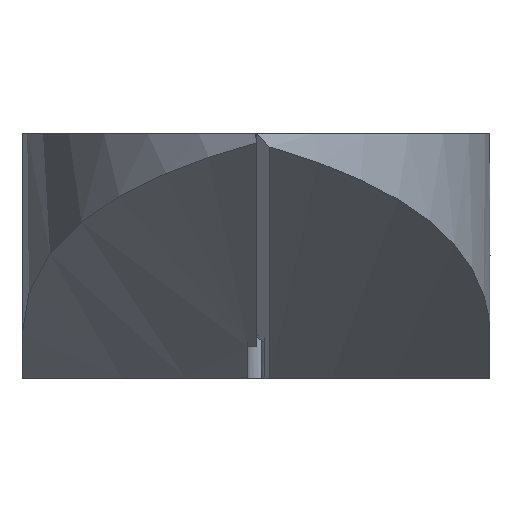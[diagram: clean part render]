
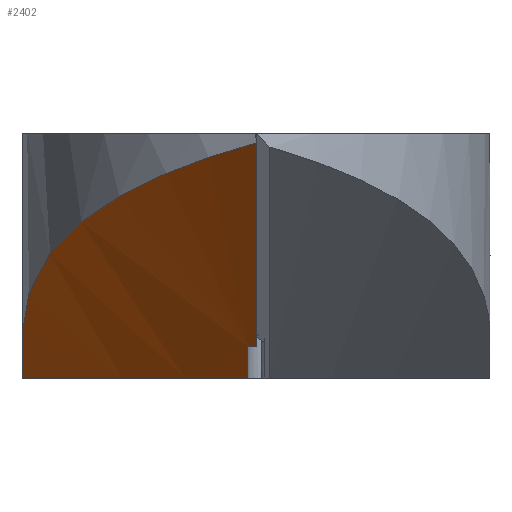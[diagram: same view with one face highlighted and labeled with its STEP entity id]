
A CAD part, left-side view. The second image highlights one B-rep face of the part: STEP entity #2402.
In plain terms, the highlighted cylindrical face has radius 75 mm (diameter 150 mm), a partial arc.
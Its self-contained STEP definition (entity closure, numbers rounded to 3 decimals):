
#36 = CARTESIAN_POINT ( 'NONE',  ( -16.896, 11.5, -9.881 ) ) ;
#55 = CARTESIAN_POINT ( 'NONE',  ( -49.625, 11.5, 9.015 ) ) ;
#127 = CARTESIAN_POINT ( 'NONE',  ( -17.679, 0., -10.453 ) ) ;
#164 = CARTESIAN_POINT ( 'NONE',  ( -16.896, 11.5, -9.881 ) ) ;
#380 = EDGE_LOOP ( 'NONE', ( #3561, #3348, #1880, #3015, #1184, #1423 ) ) ;
#536 = VERTEX_POINT ( 'NONE', #164 ) ;
#598 = LINE ( 'NONE', #1387, #2090 ) ;
#631 = CARTESIAN_POINT ( 'NONE',  ( -18.689, 11.5, -8.846 ) ) ;
#642 = VECTOR ( 'NONE', #2150, 1000. ) ;
#733 = EDGE_CURVE ( 'NONE', #867, #2693, #2463, .T. ) ;
#820 = FACE_OUTER_BOUND ( 'NONE', #380, .T. ) ;
#827 = CARTESIAN_POINT ( 'NONE',  ( -14.958, 4.119, -12. ) ) ;
#867 = VERTEX_POINT ( 'NONE', #1454 ) ;
#1004 = EDGE_CURVE ( 'NONE', #3145, #3318, #2579, .T. ) ;
#1082 = CARTESIAN_POINT ( 'NONE',  ( -29.907, 0.4, -3.392 ) ) ;
#1141 = CARTESIAN_POINT ( 'NONE',  ( -17.679, 0.4, -10.452 ) ) ;
#1184 = ORIENTED_EDGE ( 'NONE', *, *, #2103, .T. ) ;
#1320 = EDGE_CURVE ( 'NONE', #536, #3536, #2005, .T. ) ;
#1387 = CARTESIAN_POINT ( 'NONE',  ( -29.908, 0., -3.393 ) ) ;
#1407 = CARTESIAN_POINT ( 'NONE',  ( -14.998, 0.4, -12. ) ) ;
#1423 = ORIENTED_EDGE ( 'NONE', *, *, #733, .T. ) ;
#1425 = CYLINDRICAL_SURFACE ( 'NONE', #2817, 75. ) ;
#1454 = CARTESIAN_POINT ( 'NONE',  ( -13.226, 11.5, -12. ) ) ;
#1555 = CARTESIAN_POINT ( 'NONE',  ( -28.899, 7.527, -3.541 ) ) ;
#1571 = CARTESIAN_POINT ( 'NONE',  ( -30.01, 6.608, -2.998 ) ) ;
#1585 = CARTESIAN_POINT ( 'NONE',  ( -17.679, 0.267, -10.453 ) ) ;
#1693 = DIRECTION ( 'NONE',  ( 0.866, 0., -0.5 ) ) ;
#1699 = CARTESIAN_POINT ( 'NONE',  ( -12.569, 0., 73.199 ) ) ;
#1711 = CARTESIAN_POINT ( 'NONE',  ( -26.525, 9.055, -4.715 ) ) ;
#1725 = CARTESIAN_POINT ( 'NONE',  ( -28.126, 8.076, -3.92 ) ) ;
#1737 = CARTESIAN_POINT ( 'NONE',  ( -14.367, 7.825, -12. ) ) ;
#1790 = CARTESIAN_POINT ( 'NONE',  ( -24.412, 10.04, -5.787 ) ) ;
#1807 = CARTESIAN_POINT ( 'NONE',  ( -25.696, 9.484, -5.131 ) ) ;
#1819 = CARTESIAN_POINT ( 'NONE',  ( -23.103, 10.518, -6.466 ) ) ;
#1831 = CARTESIAN_POINT ( 'NONE',  ( -23.976, 10.211, -6.011 ) ) ;
#1880 = ORIENTED_EDGE ( 'NONE', *, *, #3863, .F. ) ;
#1883 = CARTESIAN_POINT ( 'NONE',  ( -22.665, 10.656, -6.696 ) ) ;
#1926 = CARTESIAN_POINT ( 'NONE',  ( -17.679, 0.4, -10.452 ) ) ;
#1927 = CARTESIAN_POINT ( 'NONE',  ( -20.467, 11.263, -7.863 ) ) ;
#1998 = DIRECTION ( 'NONE',  ( 0.866, 0., -0.5 ) ) ;
#2005 = B_SPLINE_CURVE_WITH_KNOTS ( 'NONE', 3,
 ( #36, #631, #1927, #1883, #1819, #1831, #1790, #1807, #1711, #1725, #1555, #1571, #3317, #3305, #3291, #3281, #3209, #3200, #3123, #3095 ),
 .UNSPECIFIED., .F., .F.,
 ( 4, 2, 2, 2, 2, 2, 2, 2, 2, 4 ),
 ( 0., 0.006, 0.008, 0.009, 0.012, 0.015, 0.017, 0.018, 0.021, 0.025 ),
 .UNSPECIFIED. ) ;
#2090 = VECTOR ( 'NONE', #1693, 1000. ) ;
#2103 = EDGE_CURVE ( 'NONE', #536, #867, #3806, .T. ) ;
#2110 = CARTESIAN_POINT ( 'NONE',  ( -35., 0., -0.453 ) ) ;
#2150 = DIRECTION ( 'NONE',  ( 0.866, 0., -0.5 ) ) ;
#2296 = LINE ( 'NONE', #1082, #3173 ) ;
#2402 = ADVANCED_FACE ( 'NONE', ( #820 ), #1425, .T. ) ;
#2463 =( BOUNDED_CURVE ( )  B_SPLINE_CURVE ( 3, ( #3828, #1737, #827, #1407 ),
 .UNSPECIFIED., .F., .T. ) 
 B_SPLINE_CURVE_WITH_KNOTS ( ( 4, 4 ),
 ( 2.988, 3.136 ),
 .UNSPECIFIED. ) 
 CURVE ( )  GEOMETRIC_REPRESENTATION_ITEM ( )  RATIONAL_B_SPLINE_CURVE ( ( 1., 0.998, 0.998, 1. ) ) 
 REPRESENTATION_ITEM ( '' )  );
#2579 =( BOUNDED_CURVE ( )  B_SPLINE_CURVE ( 3, ( #1926, #1585, #3654, #127 ),
 .UNSPECIFIED., .F., .T. ) 
 B_SPLINE_CURVE_WITH_KNOTS ( ( 4, 4 ),
 ( 6.278, 6.283 ),
 .UNSPECIFIED. ) 
 CURVE ( )  GEOMETRIC_REPRESENTATION_ITEM ( )  RATIONAL_B_SPLINE_CURVE ( ( 1., 1., 1., 1. ) ) 
 REPRESENTATION_ITEM ( '' )  );
#2693 = VERTEX_POINT ( 'NONE', #3505 ) ;
#2817 = AXIS2_PLACEMENT_3D ( 'NONE', #1699, #1998, #3189 ) ;
#2990 = EDGE_CURVE ( 'NONE', #3145, #2693, #2296, .T. ) ;
#3015 = ORIENTED_EDGE ( 'NONE', *, *, #1320, .F. ) ;
#3095 = CARTESIAN_POINT ( 'NONE',  ( -35., 0., -0.453 ) ) ;
#3123 = CARTESIAN_POINT ( 'NONE',  ( -34.572, 0.913, -0.7 ) ) ;
#3145 = VERTEX_POINT ( 'NONE', #1141 ) ;
#3169 = DIRECTION ( 'NONE',  ( 0.866, 0., -0.5 ) ) ;
#3173 = VECTOR ( 'NONE', #3169, 1000. ) ;
#3189 = DIRECTION ( 'NONE',  ( -0.5, 0., -0.866 ) ) ;
#3200 = CARTESIAN_POINT ( 'NONE',  ( -34.083, 1.775, -0.963 ) ) ;
#3209 = CARTESIAN_POINT ( 'NONE',  ( -32.995, 3.407, -1.526 ) ) ;
#3281 = CARTESIAN_POINT ( 'NONE',  ( -32.396, 4.177, -1.826 ) ) ;
#3291 = CARTESIAN_POINT ( 'NONE',  ( -31.418, 5.26, -2.309 ) ) ;
#3305 = CARTESIAN_POINT ( 'NONE',  ( -31.079, 5.61, -2.475 ) ) ;
#3307 = CARTESIAN_POINT ( 'NONE',  ( -17.679, 0., -10.453 ) ) ;
#3317 = CARTESIAN_POINT ( 'NONE',  ( -30.373, 6.285, -2.82 ) ) ;
#3318 = VERTEX_POINT ( 'NONE', #3307 ) ;
#3348 = ORIENTED_EDGE ( 'NONE', *, *, #1004, .T. ) ;
#3505 = CARTESIAN_POINT ( 'NONE',  ( -14.998, 0.4, -12. ) ) ;
#3536 = VERTEX_POINT ( 'NONE', #2110 ) ;
#3561 = ORIENTED_EDGE ( 'NONE', *, *, #2990, .F. ) ;
#3654 = CARTESIAN_POINT ( 'NONE',  ( -17.679, 0.133, -10.453 ) ) ;
#3806 = LINE ( 'NONE', #55, #642 ) ;
#3828 = CARTESIAN_POINT ( 'NONE',  ( -13.226, 11.5, -12. ) ) ;
#3863 = EDGE_CURVE ( 'NONE', #3536, #3318, #598, .T. ) ;
